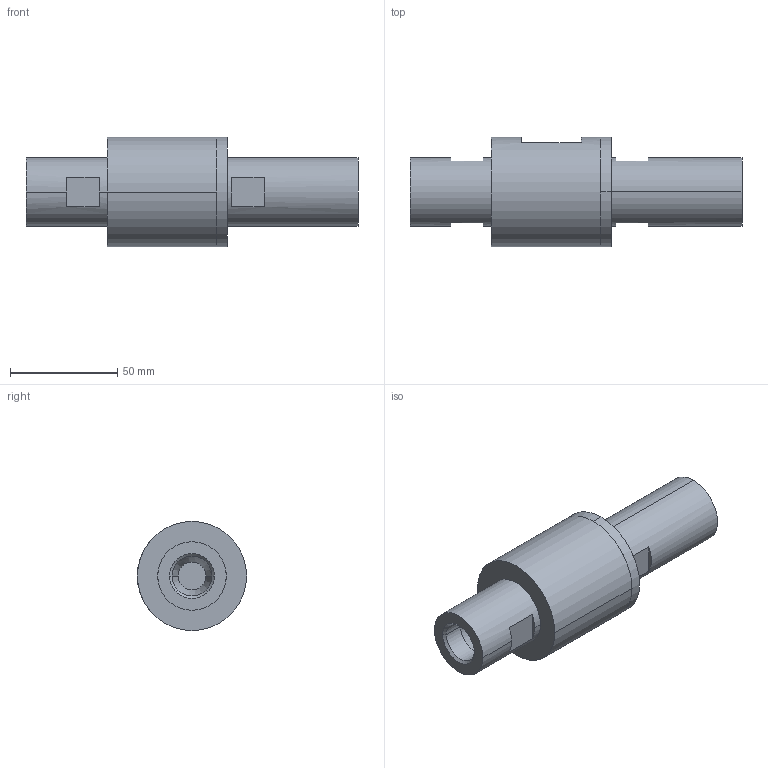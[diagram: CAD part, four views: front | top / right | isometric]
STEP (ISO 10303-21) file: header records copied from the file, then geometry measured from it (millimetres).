
FILE_DESCRIPTION (( 'STEP AP214' ), '1' );
FILE_NAME ('AVP50.STEP', '2025-01-07T19:45:05', ( '' ), ( '' ), 'SwSTEP 2.0', 'SolidWorks 2018', '' );
FILE_SCHEMA (( 'AUTOMOTIVE_DESIGN' ));
Length unit declared in the file: millimetre
Products named in the file (1): AVP50
Bounding box: 155 x 51 x 51 mm (x, y, z)
Volume: 165922.5 mm3; surface area: 31086.7 mm2
Topology: 2 solids, 2 shells, 57 faces, 121 edges, 76 vertices
Faces by surface type: plane 25, cylinder 22, cone 10
Entity records: 1959 total; most frequent: DIRECTION 303, CARTESIAN_POINT 255, ORIENTED_EDGE 242, AXIS2_PLACEMENT_3D 124, EDGE_CURVE 121, VERTEX_POINT 76, EDGE_LOOP 67, CIRCLE 66
